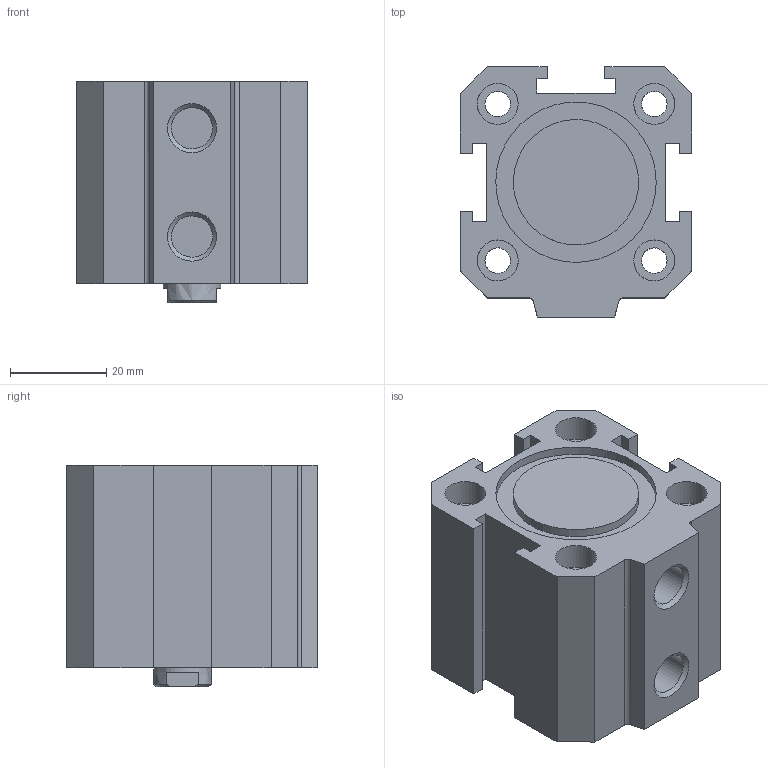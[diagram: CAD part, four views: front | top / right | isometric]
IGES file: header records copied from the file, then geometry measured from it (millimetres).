
Global section: file name: 1512_32_0010; native system: Autodesk Inventor 2014; preprocessor: unknown; author: A. Manieri; date: 20160907.113015; units: millimetre
Bounding box: 48 x 52 x 46 mm (x, y, z)
Volume: 73019.6 mm3; surface area: 26685.8 mm2
Topology: 2 solids, 2 shells, 92 faces, 236 edges, 166 vertices
Faces by surface type: bspline 92
